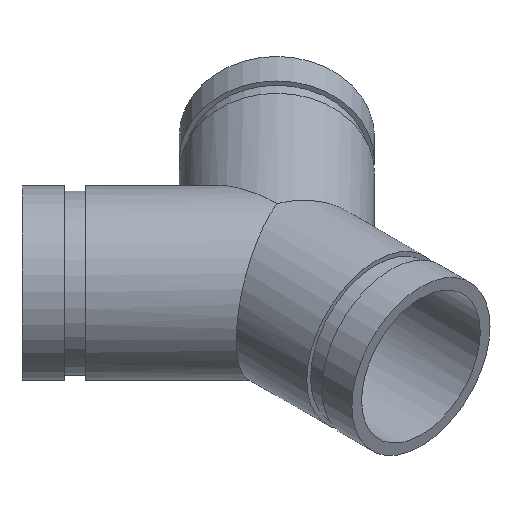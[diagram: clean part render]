
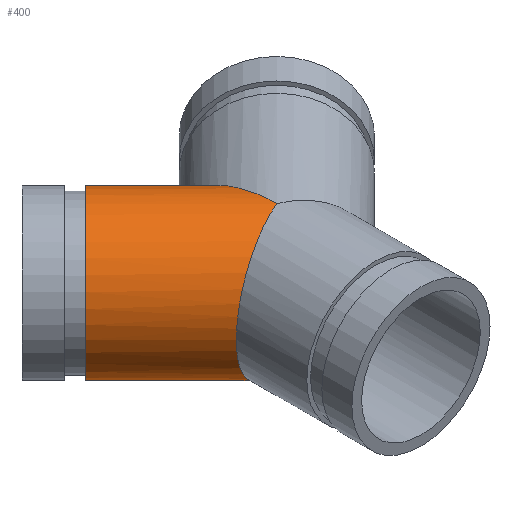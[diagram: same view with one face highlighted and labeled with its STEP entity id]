
A CAD part, isometric view. The second image highlights one B-rep face of the part: STEP entity #400.
In plain terms, the highlighted cylindrical face has radius 36.513 mm (diameter 73.025 mm), a full revolution.
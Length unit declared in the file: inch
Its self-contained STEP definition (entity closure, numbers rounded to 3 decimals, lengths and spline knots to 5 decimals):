
#76=FACE_OUTER_BOUND('',#103,.T.);
#103=EDGE_LOOP('',(#314,#315,#316,#317,#318,#319,#320,#321));
#118=ELLIPSE('',#470,2.03293,1.4375);
#119=ELLIPSE('',#471,1.55594,1.4375);
#120=ELLIPSE('',#472,1.55594,1.4375);
#121=ELLIPSE('',#473,2.03293,1.4375);
#131=LINE('',#735,#143);
#143=VECTOR('',#595,1.4375);
#156=CIRCLE('',#446,1.4375);
#157=CIRCLE('',#447,1.4375);
#186=VERTEX_POINT('',#686);
#187=VERTEX_POINT('',#687);
#202=VERTEX_POINT('',#730);
#203=VERTEX_POINT('',#731);
#204=VERTEX_POINT('',#733);
#205=VERTEX_POINT('',#736);
#223=EDGE_CURVE('',#186,#187,#156,.T.);
#224=EDGE_CURVE('',#187,#186,#157,.T.);
#243=EDGE_CURVE('',#202,#203,#118,.T.);
#244=EDGE_CURVE('',#204,#202,#119,.T.);
#245=EDGE_CURVE('',#204,#187,#131,.T.);
#246=EDGE_CURVE('',#205,#204,#120,.T.);
#247=EDGE_CURVE('',#203,#205,#121,.T.);
#314=ORIENTED_EDGE('',*,*,#243,.F.);
#315=ORIENTED_EDGE('',*,*,#244,.F.);
#316=ORIENTED_EDGE('',*,*,#245,.T.);
#317=ORIENTED_EDGE('',*,*,#224,.T.);
#318=ORIENTED_EDGE('',*,*,#223,.T.);
#319=ORIENTED_EDGE('',*,*,#245,.F.);
#320=ORIENTED_EDGE('',*,*,#246,.F.);
#321=ORIENTED_EDGE('',*,*,#247,.F.);
#359=CYLINDRICAL_SURFACE('',#469,1.4375);
#400=ADVANCED_FACE('',(#76),#359,.T.);
#446=AXIS2_PLACEMENT_3D('',#688,#539,#540);
#447=AXIS2_PLACEMENT_3D('',#689,#541,#542);
#469=AXIS2_PLACEMENT_3D('',#729,#589,#590);
#470=AXIS2_PLACEMENT_3D('',#732,#591,#592);
#471=AXIS2_PLACEMENT_3D('',#734,#593,#594);
#472=AXIS2_PLACEMENT_3D('',#737,#596,#597);
#473=AXIS2_PLACEMENT_3D('',#738,#598,#599);
#539=DIRECTION('center_axis',(0.707,-0.707,0.));
#540=DIRECTION('ref_axis',(0.707,0.707,0.));
#541=DIRECTION('center_axis',(0.707,-0.707,0.));
#542=DIRECTION('ref_axis',(0.707,0.707,0.));
#589=DIRECTION('center_axis',(0.707,-0.707,0.));
#590=DIRECTION('ref_axis',(0.707,0.707,0.));
#591=DIRECTION('center_axis',(1.,0.,0.));
#592=DIRECTION('ref_axis',(0.,1.,0.));
#593=DIRECTION('center_axis',(0.383,-0.924,0.));
#594=DIRECTION('ref_axis',(0.924,0.383,0.));
#595=DIRECTION('',(-0.707,0.707,0.));
#596=DIRECTION('center_axis',(0.383,-0.924,0.));
#597=DIRECTION('ref_axis',(0.924,0.383,0.));
#598=DIRECTION('center_axis',(1.,0.,0.));
#599=DIRECTION('ref_axis',(0.,1.,0.));
#686=CARTESIAN_POINT('',(-0.97192,3.00485,0.));
#687=CARTESIAN_POINT('',(-3.00485,0.97192,0.));
#688=CARTESIAN_POINT('Origin',(-1.98838,1.98838,0.));
#689=CARTESIAN_POINT('Origin',(-1.98838,1.98838,0.));
#729=CARTESIAN_POINT('Origin',(-2.65165,2.65165,0.));
#730=CARTESIAN_POINT('',(0.,0.,-1.4375));
#731=CARTESIAN_POINT('',(0.,2.03293,0.));
#732=CARTESIAN_POINT('Origin',(0.,0.,
0.));
#733=CARTESIAN_POINT('',(-1.4375,-0.59543,0.));
#734=CARTESIAN_POINT('Origin',(0.,0.,
0.));
#735=CARTESIAN_POINT('',(-3.66812,1.63518,0.));
#736=CARTESIAN_POINT('',(0.,0.,1.4375));
#737=CARTESIAN_POINT('Origin',(0.,0.,
0.));
#738=CARTESIAN_POINT('Origin',(0.,0.,
0.));
